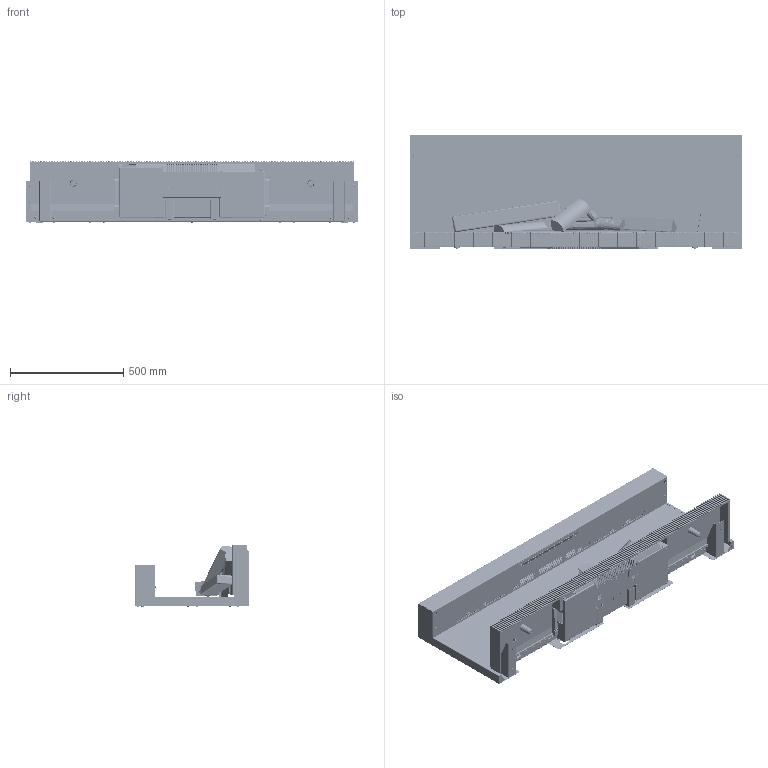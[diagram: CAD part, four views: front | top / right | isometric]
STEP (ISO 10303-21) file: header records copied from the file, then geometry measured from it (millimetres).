
FILE_DESCRIPTION (( 'STEP AP203' ), '1' );
FILE_NAME ('E Series E65.STEP', '2024-03-12T11:04:29', ( '' ), ( '' ), 'SwSTEP 2.0', 'SolidWorks 2020', '' );
FILE_SCHEMA (( 'CONFIG_CONTROL_DESIGN' ));
Length unit declared in the file: millimetre
Products named in the file (69): KF06460; KF06679; KF05901; KF05870; KF05924; E Series E65; KF05976; KF05962_Hand set bends; KF05910; KF04164; KF04079; KF06370; KF05964; KF05927; KF05881_Inschijner; KF06681; KF05915; KF06604; KF06368; KF04009; KF05861; KF05934_Built in; KF05846; KF06148_Built in ; KF06606; KF05869; KF04003; KF06717_Right - Bend; KF06364; KF06603; KF06611; KF06684_Built in; KF06550; KF06369; KF06608; KF05847; KF06219; KF05909; KF05961; KF05928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
Assembly tree (187 placements, depth 6):
  E Series E65
    KF05881_Inschijner
      KF05976
      KF06112
        KF05883
        KF06109
      KF06113
        KF05884
        KF06109
      KF06679  x2
    KF05923
    KF06219
      KF06372
        KF05932
          KF05927
          KF04020  x5
          KF04060  x4
        KF05930
          KF05924
          KF04020  x9
        KF05910
          KF05901
          KF04079  x2
          KF04020  x3
        KF05909
          KF05900
          KF04079  x2
          KF04020  x3
        KF05934_Built in
          KF06148_Built in 
          KF04020  x2
          KF04060  x4
        KF05928
        KF05846  x2
          KF05847
          KF06057
          KF04020
          KF06545
        KF06370
          KF06369
          KF04020
        KF06368
          KF06364
          KF04020
        KF06460  x2
        KF06681
          KF06683_Built in
          KF06684_Built in
          KF06717_Left - Bend 
          KF06717_Right - Bend
      KF05969_ISO 14579 M6 x 10 - 10N[Galvanized]  x2
      KF05915  x23
      KF05914  x12
      KF04009  x10
      KF06459
        KF06550
          KF06083_Built in version
            KF05962_Hand set bends
            KF04020  x2
          KF05964
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Bounding box: 1466 x 504.11 x 277.5 mm (x, y, z)
Volume: 14577250.1 mm3; surface area: 7796362.8 mm2
Topology: 171 solids, 220 shells, 12698 faces, 31962 edges, 19945 vertices
Faces by surface type: plane 7610, cylinder 3237, cone 1391, bspline 233, torus 175, sphere 52
Entity records: 280533 total; most frequent: CARTESIAN_POINT 67279, ORIENTED_EDGE 42392, DIRECTION 41902, EDGE_CURVE 21196, VECTOR 15184, LINE 15184, AXIS2_PLACEMENT_3D 13359, VERTEX_POINT 13183
